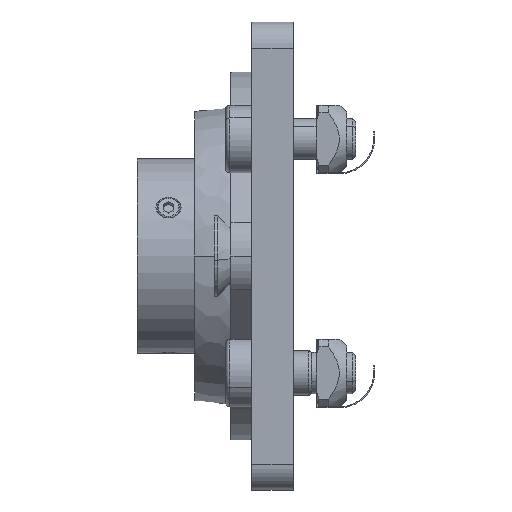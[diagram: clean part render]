
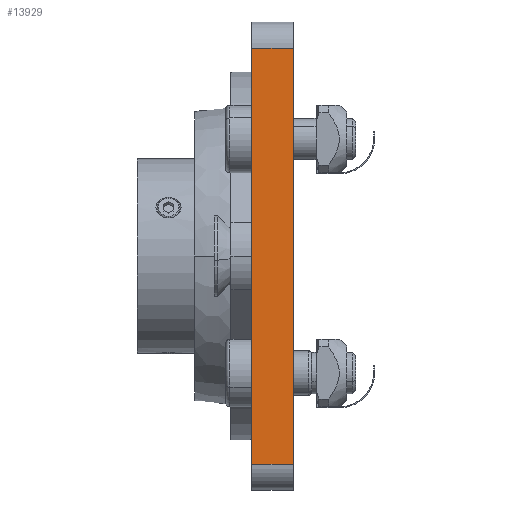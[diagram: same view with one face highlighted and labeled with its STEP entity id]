
A CAD part, left-side view. The second image highlights one B-rep face of the part: STEP entity #13929.
In plain terms, the highlighted planar face has unit normal (-1, 0, 0).
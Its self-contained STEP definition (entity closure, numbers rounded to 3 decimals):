
#357 = CARTESIAN_POINT ( 'NONE',  ( -109.848, -10.038, -32.661 ) ) ;
#949 = VECTOR ( 'NONE', #16485, 1000. ) ;
#1316 = CARTESIAN_POINT ( 'NONE',  ( -109.848, -2.038, -37.661 ) ) ;
#1674 = CARTESIAN_POINT ( 'NONE',  ( -109.848, -2.038, -37.661 ) ) ;
#2103 = ORIENTED_EDGE ( 'NONE', *, *, #8705, .T. ) ;
#2364 = CARTESIAN_POINT ( 'NONE',  ( -109.848, -10.038, 47.339 ) ) ;
#3389 = LINE ( 'NONE', #16814, #949 ) ;
#3784 = CARTESIAN_POINT ( 'NONE',  ( -109.848, -10.038, -37.661 ) ) ;
#4255 = AXIS2_PLACEMENT_3D ( 'NONE', #1316, #18184, #8092 ) ;
#4992 = CARTESIAN_POINT ( 'NONE',  ( -109.848, -2.038, -32.661 ) ) ;
#5004 = DIRECTION ( 'NONE',  ( 0., 0., 1. ) ) ;
#5184 = EDGE_CURVE ( 'NONE', #15280, #14986, #14077, .T. ) ;
#5232 = DIRECTION ( 'NONE',  ( 0., 0., 1. ) ) ;
#5431 = EDGE_CURVE ( 'NONE', #13923, #16026, #3389, .T. ) ;
#7766 = ORIENTED_EDGE ( 'NONE', *, *, #17847, .F. ) ;
#8092 = DIRECTION ( 'NONE',  ( 0., 0., -1. ) ) ;
#8705 = EDGE_CURVE ( 'NONE', #16026, #15280, #12057, .T. ) ;
#9168 = ORIENTED_EDGE ( 'NONE', *, *, #5184, .T. ) ;
#10057 = PLANE ( 'NONE',  #4255 ) ;
#10843 = ORIENTED_EDGE ( 'NONE', *, *, #5431, .T. ) ;
#11401 = VECTOR ( 'NONE', #5232, 1000. ) ;
#12057 = LINE ( 'NONE', #3784, #11401 ) ;
#12123 = VECTOR ( 'NONE', #12138, 1000. ) ;
#12138 = DIRECTION ( 'NONE',  ( 0., 1., 0. ) ) ;
#12526 = CARTESIAN_POINT ( 'NONE',  ( -109.848, -2.038, 47.339 ) ) ;
#13923 = VERTEX_POINT ( 'NONE', #4992 ) ;
#13929 = ADVANCED_FACE ( 'NONE', ( #17964 ), #10057, .F. ) ;
#14077 = LINE ( 'NONE', #20800, #12123 ) ;
#14766 = LINE ( 'NONE', #1674, #16186 ) ;
#14986 = VERTEX_POINT ( 'NONE', #12526 ) ;
#15280 = VERTEX_POINT ( 'NONE', #2364 ) ;
#16026 = VERTEX_POINT ( 'NONE', #357 ) ;
#16186 = VECTOR ( 'NONE', #5004, 1000. ) ;
#16485 = DIRECTION ( 'NONE',  ( 0., -1., 0. ) ) ;
#16814 = CARTESIAN_POINT ( 'NONE',  ( -109.848, -2.038, -32.661 ) ) ;
#17847 = EDGE_CURVE ( 'NONE', #13923, #14986, #14766, .T. ) ;
#17964 = FACE_OUTER_BOUND ( 'NONE', #20831, .T. ) ;
#18184 = DIRECTION ( 'NONE',  ( 1., 0., 0. ) ) ;
#20800 = CARTESIAN_POINT ( 'NONE',  ( -109.848, -2.038, 47.339 ) ) ;
#20831 = EDGE_LOOP ( 'NONE', ( #7766, #10843, #2103, #9168 ) ) ;
